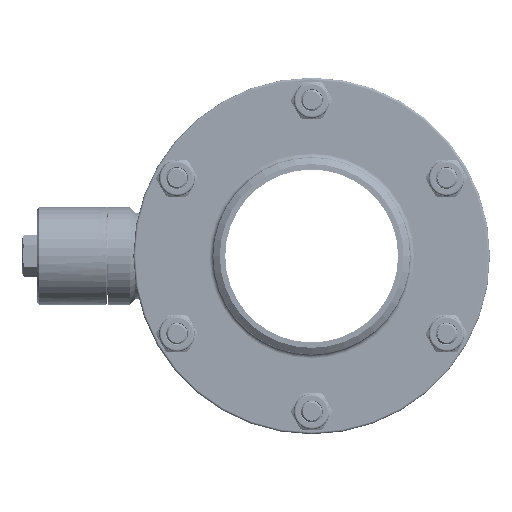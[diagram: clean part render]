
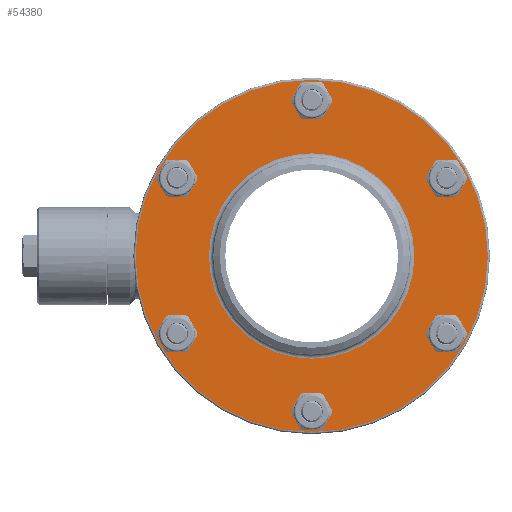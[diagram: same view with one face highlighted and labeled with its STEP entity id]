
A CAD part, left-side view. The second image highlights one B-rep face of the part: STEP entity #54380.
In plain terms, the highlighted planar face has unit normal (-1, 0, 0).
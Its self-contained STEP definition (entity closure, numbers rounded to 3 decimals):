
#13783=CARTESIAN_POINT('',(-63.5,0.,0.));
#13784=DIRECTION('',(-1.,0.,0.));
#13785=DIRECTION('',(0.,1.,0.));
#13786=AXIS2_PLACEMENT_3D('',#13783,#13784,#13785);
#13791=CARTESIAN_POINT('',(-63.5,0.,0.));
#13792=DIRECTION('',(-1.,0.,0.));
#13793=DIRECTION('',(0.,-1.,0.));
#13794=AXIS2_PLACEMENT_3D('',#13791,#13792,#13793);
#13799=CARTESIAN_POINT('',(-63.5,0.,0.));
#13800=DIRECTION('',(1.,0.,0.));
#13801=DIRECTION('',(0.,1.,0.));
#13802=AXIS2_PLACEMENT_3D('',#13799,#13800,#13801);
#13807=CARTESIAN_POINT('',(-63.5,0.,0.));
#13808=DIRECTION('',(1.,0.,0.));
#13809=DIRECTION('',(0.,-1.,0.));
#13810=AXIS2_PLACEMENT_3D('',#13807,#13808,#13809);
#13815=CARTESIAN_POINT('',(-63.5,62.354,-36.));
#13816=DIRECTION('',(-1.,0.,0.));
#13817=DIRECTION('',(0.,1.,0.));
#13818=AXIS2_PLACEMENT_3D('',#13815,#13816,#13817);
#13823=CARTESIAN_POINT('',(-63.5,62.354,-36.));
#13824=DIRECTION('',(-1.,0.,0.));
#13825=DIRECTION('',(0.,-1.,0.));
#13826=AXIS2_PLACEMENT_3D('',#13823,#13824,#13825);
#13831=CARTESIAN_POINT('',(-63.5,0.,-72.));
#13832=DIRECTION('',(-1.,0.,0.));
#13833=DIRECTION('',(0.,1.,0.));
#13834=AXIS2_PLACEMENT_3D('',#13831,#13832,#13833);
#13839=CARTESIAN_POINT('',(-63.5,0.,-72.));
#13840=DIRECTION('',(-1.,0.,0.));
#13841=DIRECTION('',(0.,-1.,0.));
#13842=AXIS2_PLACEMENT_3D('',#13839,#13840,#13841);
#13847=CARTESIAN_POINT('',(-63.5,-62.354,-36.));
#13848=DIRECTION('',(-1.,0.,0.));
#13849=DIRECTION('',(0.,1.,0.));
#13850=AXIS2_PLACEMENT_3D('',#13847,#13848,#13849);
#13855=CARTESIAN_POINT('',(-63.5,-62.354,-36.));
#13856=DIRECTION('',(-1.,0.,0.));
#13857=DIRECTION('',(0.,-1.,0.));
#13858=AXIS2_PLACEMENT_3D('',#13855,#13856,#13857);
#13863=CARTESIAN_POINT('',(-63.5,-62.354,36.));
#13864=DIRECTION('',(-1.,0.,0.));
#13865=DIRECTION('',(0.,1.,0.));
#13866=AXIS2_PLACEMENT_3D('',#13863,#13864,#13865);
#13871=CARTESIAN_POINT('',(-63.5,-62.354,36.));
#13872=DIRECTION('',(-1.,0.,0.));
#13873=DIRECTION('',(0.,-1.,0.));
#13874=AXIS2_PLACEMENT_3D('',#13871,#13872,#13873);
#13879=CARTESIAN_POINT('',(-63.5,0.,72.));
#13880=DIRECTION('',(-1.,0.,0.));
#13881=DIRECTION('',(0.,1.,0.));
#13882=AXIS2_PLACEMENT_3D('',#13879,#13880,#13881);
#13887=CARTESIAN_POINT('',(-63.5,0.,72.));
#13888=DIRECTION('',(-1.,0.,0.));
#13889=DIRECTION('',(0.,-1.,0.));
#13890=AXIS2_PLACEMENT_3D('',#13887,#13888,#13889);
#13895=CARTESIAN_POINT('',(-63.5,62.354,36.));
#13896=DIRECTION('',(-1.,0.,0.));
#13897=DIRECTION('',(0.,1.,0.));
#13898=AXIS2_PLACEMENT_3D('',#13895,#13896,#13897);
#13903=CARTESIAN_POINT('',(-63.5,62.354,36.));
#13904=DIRECTION('',(-1.,0.,0.));
#13905=DIRECTION('',(0.,-1.,0.));
#13906=AXIS2_PLACEMENT_3D('',#13903,#13904,#13905);
#43211=CARTESIAN_POINT('',(-63.5,47.5,0.));
#43212=CARTESIAN_POINT('',(-63.5,-47.5,0.));
#43213=VERTEX_POINT('',#43211);
#43214=VERTEX_POINT('',#43212);
#43231=CARTESIAN_POINT('',(-63.5,81.5,0.));
#43232=CARTESIAN_POINT('',(-63.5,-81.5,0.));
#43233=VERTEX_POINT('',#43231);
#43234=VERTEX_POINT('',#43232);
#44073=CARTESIAN_POINT('',(-63.5,70.604,-36.));
#44074=CARTESIAN_POINT('',(-63.5,54.104,-36.));
#44075=VERTEX_POINT('',#44073);
#44076=VERTEX_POINT('',#44074);
#44197=CARTESIAN_POINT('',(-63.5,8.25,-72.));
#44198=CARTESIAN_POINT('',(-63.5,-8.25,-72.));
#44199=VERTEX_POINT('',#44197);
#44200=VERTEX_POINT('',#44198);
#44321=CARTESIAN_POINT('',(-63.5,-54.104,-36.));
#44322=CARTESIAN_POINT('',(-63.5,-70.604,-36.));
#44323=VERTEX_POINT('',#44321);
#44324=VERTEX_POINT('',#44322);
#44445=CARTESIAN_POINT('',(-63.5,-54.104,36.));
#44446=CARTESIAN_POINT('',(-63.5,-70.604,36.));
#44447=VERTEX_POINT('',#44445);
#44448=VERTEX_POINT('',#44446);
#44569=CARTESIAN_POINT('',(-63.5,8.25,72.));
#44570=CARTESIAN_POINT('',(-63.5,-8.25,72.));
#44571=VERTEX_POINT('',#44569);
#44572=VERTEX_POINT('',#44570);
#44693=CARTESIAN_POINT('',(-63.5,70.604,36.));
#44694=CARTESIAN_POINT('',(-63.5,54.104,36.));
#44695=VERTEX_POINT('',#44693);
#44696=VERTEX_POINT('',#44694);
#54328=CARTESIAN_POINT('',(-63.5,0.,0.));
#54329=DIRECTION('',(-1.,0.,0.));
#54330=DIRECTION('',(0.,1.,0.));
#54331=AXIS2_PLACEMENT_3D('',#54328,#54329,#54330);
#54332=PLANE('',#54331);
#54334=ORIENTED_EDGE('',*,*,#54333,.T.);
#54336=ORIENTED_EDGE('',*,*,#54335,.T.);
#54337=EDGE_LOOP('',(#54334,#54336));
#54338=FACE_OUTER_BOUND('',#54337,.F.);
#54340=ORIENTED_EDGE('',*,*,#54339,.T.);
#54341=ORIENTED_EDGE('',*,*,#54318,.T.);
#54342=EDGE_LOOP('',(#54340,#54341));
#54343=FACE_BOUND('',#54342,.F.);
#54345=ORIENTED_EDGE('',*,*,#54344,.T.);
#54347=ORIENTED_EDGE('',*,*,#54346,.T.);
#54348=EDGE_LOOP('',(#54345,#54347));
#54349=FACE_BOUND('',#54348,.F.);
#54351=ORIENTED_EDGE('',*,*,#54350,.T.);
#54353=ORIENTED_EDGE('',*,*,#54352,.T.);
#54354=EDGE_LOOP('',(#54351,#54353));
#54355=FACE_BOUND('',#54354,.F.);
#54357=ORIENTED_EDGE('',*,*,#54356,.T.);
#54359=ORIENTED_EDGE('',*,*,#54358,.T.);
#54360=EDGE_LOOP('',(#54357,#54359));
#54361=FACE_BOUND('',#54360,.F.);
#54363=ORIENTED_EDGE('',*,*,#54362,.T.);
#54365=ORIENTED_EDGE('',*,*,#54364,.T.);
#54366=EDGE_LOOP('',(#54363,#54365));
#54367=FACE_BOUND('',#54366,.F.);
#54369=ORIENTED_EDGE('',*,*,#54368,.T.);
#54371=ORIENTED_EDGE('',*,*,#54370,.T.);
#54372=EDGE_LOOP('',(#54369,#54371));
#54373=FACE_BOUND('',#54372,.F.);
#54375=ORIENTED_EDGE('',*,*,#54374,.T.);
#54377=ORIENTED_EDGE('',*,*,#54376,.T.);
#54378=EDGE_LOOP('',(#54375,#54377));
#54379=FACE_BOUND('',#54378,.F.);
#54380=ADVANCED_FACE('',(#54338,#54343,#54349,#54355,#54361,#54367,#54373,
#54379),#54332,.T.);
#13787=CIRCLE('',#13786,47.5);
#13795=CIRCLE('',#13794,47.5);
#13803=CIRCLE('',#13802,81.5);
#13811=CIRCLE('',#13810,81.5);
#13819=CIRCLE('',#13818,8.25);
#13827=CIRCLE('',#13826,8.25);
#13835=CIRCLE('',#13834,8.25);
#13843=CIRCLE('',#13842,8.25);
#13851=CIRCLE('',#13850,8.25);
#13859=CIRCLE('',#13858,8.25);
#13867=CIRCLE('',#13866,8.25);
#13875=CIRCLE('',#13874,8.25);
#13883=CIRCLE('',#13882,8.25);
#13891=CIRCLE('',#13890,8.25);
#13899=CIRCLE('',#13898,8.25);
#13907=CIRCLE('',#13906,8.25);
#54318=EDGE_CURVE('',#43214,#43213,#13795,.T.);
#54333=EDGE_CURVE('',#43233,#43234,#13803,.T.);
#54335=EDGE_CURVE('',#43234,#43233,#13811,.T.);
#54339=EDGE_CURVE('',#43213,#43214,#13787,.T.);
#54344=EDGE_CURVE('',#44075,#44076,#13819,.T.);
#54346=EDGE_CURVE('',#44076,#44075,#13827,.T.);
#54350=EDGE_CURVE('',#44199,#44200,#13835,.T.);
#54352=EDGE_CURVE('',#44200,#44199,#13843,.T.);
#54356=EDGE_CURVE('',#44323,#44324,#13851,.T.);
#54358=EDGE_CURVE('',#44324,#44323,#13859,.T.);
#54362=EDGE_CURVE('',#44447,#44448,#13867,.T.);
#54364=EDGE_CURVE('',#44448,#44447,#13875,.T.);
#54368=EDGE_CURVE('',#44571,#44572,#13883,.T.);
#54370=EDGE_CURVE('',#44572,#44571,#13891,.T.);
#54374=EDGE_CURVE('',#44695,#44696,#13899,.T.);
#54376=EDGE_CURVE('',#44696,#44695,#13907,.T.);
